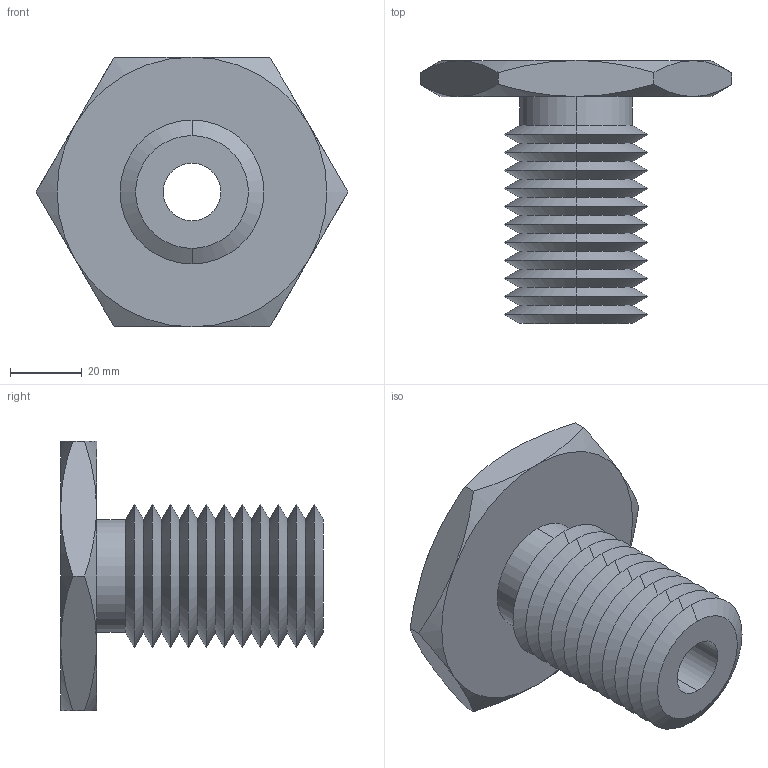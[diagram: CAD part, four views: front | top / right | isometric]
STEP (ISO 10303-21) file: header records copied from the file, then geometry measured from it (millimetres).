
FILE_DESCRIPTION (( 'STEP AP203' ), '1' );
FILE_NAME ('63302.W0042_M16x2.step', '2013-12-08T11:12:48', ( 'User' ), ( '' ), 'SwSTEP 2.0', 'SolidWorks 2009', '' );
FILE_SCHEMA (( 'CONFIG_CONTROL_DESIGN' ));
Length unit declared in the file: millimetre
Products named in the file (1): 63302.W0042_M16x2
Bounding box: 86.6 x 73 x 75 mm (x, y, z)
Volume: 94413.4 mm3; surface area: 28212 mm2
Topology: 1 solids, 1 shells, 71 faces, 146 edges, 78 vertices
Faces by surface type: cone 58, plane 9, cylinder 4
Entity records: 2039 total; most frequent: CARTESIAN_POINT 480, DIRECTION 332, ORIENTED_EDGE 292, EDGE_CURVE 146, AXIS2_PLACEMENT_3D 138, VERTEX_POINT 78, EDGE_LOOP 74, ADVANCED_FACE 71
